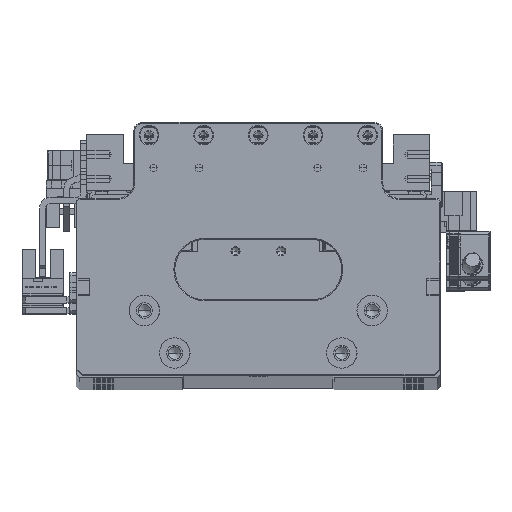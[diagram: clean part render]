
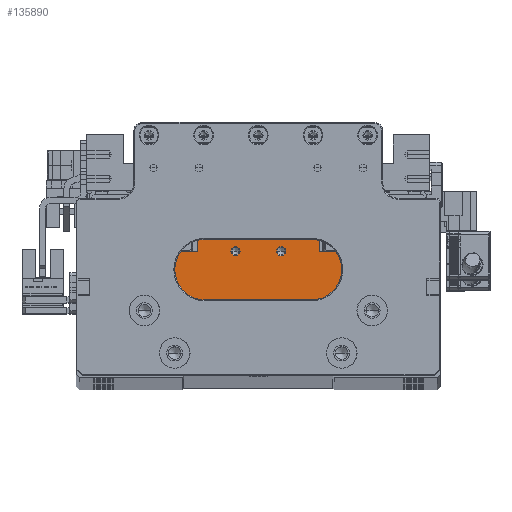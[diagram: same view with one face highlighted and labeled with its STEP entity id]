
A CAD part, top view. The second image highlights one B-rep face of the part: STEP entity #135890.
In plain terms, the highlighted planar face has unit normal (0, 0, 1).
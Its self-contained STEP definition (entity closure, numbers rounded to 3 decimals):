
#2608 = CIRCLE ( 'NONE', #144133, 1.525 ) ;
#4012 = CARTESIAN_POINT ( 'NONE',  ( -75.125, 79.08, 462.722 ) ) ;
#5479 = DIRECTION ( 'NONE',  ( 1., 0., 0. ) ) ;
#6010 = LINE ( 'NONE', #63441, #126898 ) ;
#6426 = FACE_BOUND ( 'NONE', #66330, .T. ) ;
#8371 = LINE ( 'NONE', #125952, #91787 ) ;
#8587 = VERTEX_POINT ( 'NONE', #50367 ) ;
#10454 = EDGE_CURVE ( 'NONE', #99469, #99627, #8371, .T. ) ;
#10988 = CARTESIAN_POINT ( 'NONE',  ( -52.725, 59.78, 462.722 ) ) ;
#13413 = PLANE ( 'NONE',  #98729 ) ;
#13913 = DIRECTION ( 'NONE',  ( -1., 0., 0. ) ) ;
#14407 = CARTESIAN_POINT ( 'NONE',  ( -75.125, 79.08, 462.722 ) ) ;
#14829 = VECTOR ( 'NONE', #5479, 1000. ) ;
#15458 = DIRECTION ( 'NONE',  ( 1., 0., 0. ) ) ;
#16244 = ORIENTED_EDGE ( 'NONE', *, *, #92020, .F. ) ;
#19466 = CARTESIAN_POINT ( 'NONE',  ( -112.525, 59.78, 462.722 ) ) ;
#20959 = VERTEX_POINT ( 'NONE', #139051 ) ;
#23628 = VECTOR ( 'NONE', #47361, 1000. ) ;
#25798 = DIRECTION ( 'NONE',  ( 1., 0., 0. ) ) ;
#26689 = CARTESIAN_POINT ( 'NONE',  ( -90.125, 79.08, 462.722 ) ) ;
#28561 = CARTESIAN_POINT ( 'NONE',  ( -102.625, 78.98, 462.722 ) ) ;
#28758 = CARTESIAN_POINT ( 'NONE',  ( -90.125, 78.98, 462.722 ) ) ;
#30099 = LINE ( 'NONE', #105759, #143956 ) ;
#32459 = ORIENTED_EDGE ( 'NONE', *, *, #100787, .F. ) ;
#33026 = ORIENTED_EDGE ( 'NONE', *, *, #53838, .F. ) ;
#35073 = ORIENTED_EDGE ( 'NONE', *, *, #36245, .F. ) ;
#36245 = EDGE_CURVE ( 'NONE', #91622, #71586, #2608, .T. ) ;
#36576 = EDGE_CURVE ( 'NONE', #51398, #43832, #61130, .T. ) ;
#36818 = EDGE_CURVE ( 'NONE', #20959, #99627, #6010, .T. ) ;
#37723 = DIRECTION ( 'NONE',  ( 1., 0., 0. ) ) ;
#38109 = DIRECTION ( 'NONE',  ( 1., 0., 0. ) ) ;
#40033 = DIRECTION ( 'NONE',  ( 1., 0., 0. ) ) ;
#43832 = VERTEX_POINT ( 'NONE', #145894 ) ;
#46148 = ORIENTED_EDGE ( 'NONE', *, *, #10454, .T. ) ;
#46454 = DIRECTION ( 'NONE',  ( 1., 0., 0. ) ) ;
#47149 = DIRECTION ( 'NONE',  ( 0., -1., 0. ) ) ;
#47361 = DIRECTION ( 'NONE',  ( 0., 1., 0. ) ) ;
#49274 = EDGE_CURVE ( 'NONE', #115088, #8587, #30099, .T. ) ;
#50367 = CARTESIAN_POINT ( 'NONE',  ( -62.625, 82.98, 462.722 ) ) ;
#51398 = VERTEX_POINT ( 'NONE', #82865 ) ;
#53741 = EDGE_CURVE ( 'NONE', #71586, #91622, #98334, .T. ) ;
#53838 = EDGE_CURVE ( 'NONE', #113200, #132029, #84085, .T. ) ;
#55590 = CARTESIAN_POINT ( 'NONE',  ( -90.125, 79.08, 462.722 ) ) ;
#57227 = LINE ( 'NONE', #73968, #140884 ) ;
#57383 = LINE ( 'NONE', #58300, #23628 ) ;
#57791 = EDGE_LOOP ( 'NONE', ( #33026, #16244, #46148, #111043, #111114, #70620, #75105, #32459 ) ) ;
#58300 = CARTESIAN_POINT ( 'NONE',  ( -102.625, 71.48, 462.722 ) ) ;
#61130 = CIRCLE ( 'NONE', #65017, 1.525 ) ;
#63274 = FACE_BOUND ( 'NONE', #85781, .T. ) ;
#63441 = CARTESIAN_POINT ( 'NONE',  ( -52.725, 71.48, 462.722 ) ) ;
#63549 = ORIENTED_EDGE ( 'NONE', *, *, #131289, .F. ) ;
#64007 = CARTESIAN_POINT ( 'NONE',  ( -91.65, 79.08, 462.722 ) ) ;
#65017 = AXIS2_PLACEMENT_3D ( 'NONE', #14407, #93748, #25798 ) ;
#66330 = EDGE_LOOP ( 'NONE', ( #35073, #128396 ) ) ;
#67030 = DIRECTION ( 'NONE',  ( 1., 0., 0. ) ) ;
#70620 = ORIENTED_EDGE ( 'NONE', *, *, #146984, .F. ) ;
#71586 = VERTEX_POINT ( 'NONE', #64007 ) ;
#73968 = CARTESIAN_POINT ( 'NONE',  ( -112.525, 71.48, 462.722 ) ) ;
#75105 = ORIENTED_EDGE ( 'NONE', *, *, #49274, .F. ) ;
#75107 = LINE ( 'NONE', #28758, #14829 ) ;
#76088 = CARTESIAN_POINT ( 'NONE',  ( -112.525, 78.98, 462.722 ) ) ;
#77252 = VECTOR ( 'NONE', #47149, 1000. ) ;
#78458 = ORIENTED_EDGE ( 'NONE', *, *, #36576, .F. ) ;
#80619 = EDGE_CURVE ( 'NONE', #104311, #20959, #75107, .T. ) ;
#81827 = DIRECTION ( 'NONE',  ( 0., 0., -1. ) ) ;
#82865 = CARTESIAN_POINT ( 'NONE',  ( -76.65, 79.08, 462.722 ) ) ;
#83363 = DIRECTION ( 'NONE',  ( 0., 0., 1. ) ) ;
#84085 = LINE ( 'NONE', #108068, #87583 ) ;
#84730 = CARTESIAN_POINT ( 'NONE',  ( -102.625, 82.98, 462.722 ) ) ;
#85781 = EDGE_LOOP ( 'NONE', ( #63549, #78458 ) ) ;
#86208 = DIRECTION ( 'NONE',  ( 0., -1., 0. ) ) ;
#87497 = CARTESIAN_POINT ( 'NONE',  ( -62.625, 78.98, 462.722 ) ) ;
#87583 = VECTOR ( 'NONE', #40033, 1000. ) ;
#91622 = VERTEX_POINT ( 'NONE', #109367 ) ;
#91787 = VECTOR ( 'NONE', #46454, 1000. ) ;
#92020 = EDGE_CURVE ( 'NONE', #99469, #113200, #57227, .T. ) ;
#93748 = DIRECTION ( 'NONE',  ( 0., 0., 1. ) ) ;
#97001 = FACE_OUTER_BOUND ( 'NONE', #57791, .T. ) ;
#98195 = AXIS2_PLACEMENT_3D ( 'NONE', #26689, #106167, #38109 ) ;
#98334 = CIRCLE ( 'NONE', #98195, 1.525 ) ;
#98729 = AXIS2_PLACEMENT_3D ( 'NONE', #138650, #81827, #13913 ) ;
#99469 = VERTEX_POINT ( 'NONE', #19466 ) ;
#99627 = VERTEX_POINT ( 'NONE', #10988 ) ;
#100787 = EDGE_CURVE ( 'NONE', #132029, #115088, #57383, .T. ) ;
#103964 = AXIS2_PLACEMENT_3D ( 'NONE', #4012, #83363, #15458 ) ;
#104311 = VERTEX_POINT ( 'NONE', #87497 ) ;
#105759 = CARTESIAN_POINT ( 'NONE',  ( -90.125, 82.98, 462.722 ) ) ;
#106167 = DIRECTION ( 'NONE',  ( 0., 0., 1. ) ) ;
#108068 = CARTESIAN_POINT ( 'NONE',  ( -90.125, 78.98, 462.722 ) ) ;
#109367 = CARTESIAN_POINT ( 'NONE',  ( -88.6, 79.08, 462.722 ) ) ;
#111043 = ORIENTED_EDGE ( 'NONE', *, *, #36818, .F. ) ;
#111114 = ORIENTED_EDGE ( 'NONE', *, *, #80619, .F. ) ;
#113200 = VERTEX_POINT ( 'NONE', #76088 ) ;
#114135 = CIRCLE ( 'NONE', #103964, 1.525 ) ;
#115088 = VERTEX_POINT ( 'NONE', #84730 ) ;
#119702 = DIRECTION ( 'NONE',  ( 0., 1., 0. ) ) ;
#125952 = CARTESIAN_POINT ( 'NONE',  ( -90.125, 59.78, 462.722 ) ) ;
#126653 = CARTESIAN_POINT ( 'NONE',  ( -62.625, 71.48, 462.722 ) ) ;
#126898 = VECTOR ( 'NONE', #86208, 1000. ) ;
#128396 = ORIENTED_EDGE ( 'NONE', *, *, #53741, .F. ) ;
#131289 = EDGE_CURVE ( 'NONE', #43832, #51398, #114135, .T. ) ;
#132029 = VERTEX_POINT ( 'NONE', #28561 ) ;
#135141 = DIRECTION ( 'NONE',  ( 0., 0., 1. ) ) ;
#135890 = ADVANCED_FACE ( 'NONE', ( #97001, #63274, #6426 ), #13413, .F. ) ;
#137897 = LINE ( 'NONE', #126653, #77252 ) ;
#138650 = CARTESIAN_POINT ( 'NONE',  ( -90.125, 71.48, 462.722 ) ) ;
#139051 = CARTESIAN_POINT ( 'NONE',  ( -52.725, 78.98, 462.722 ) ) ;
#140884 = VECTOR ( 'NONE', #119702, 1000. ) ;
#143956 = VECTOR ( 'NONE', #37723, 1000. ) ;
#144133 = AXIS2_PLACEMENT_3D ( 'NONE', #55590, #135141, #67030 ) ;
#145894 = CARTESIAN_POINT ( 'NONE',  ( -73.6, 79.08, 462.722 ) ) ;
#146984 = EDGE_CURVE ( 'NONE', #8587, #104311, #137897, .T. ) ;
